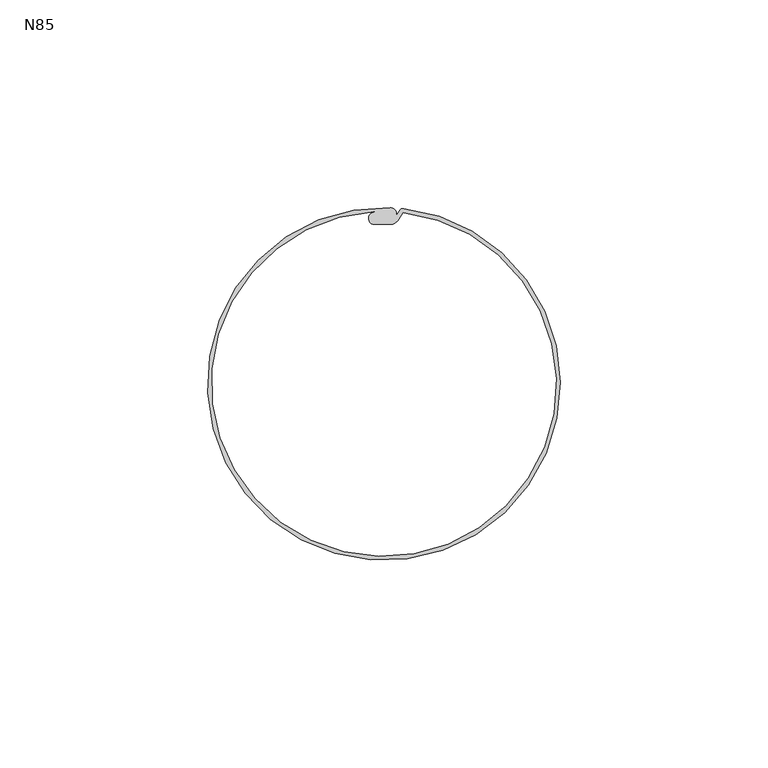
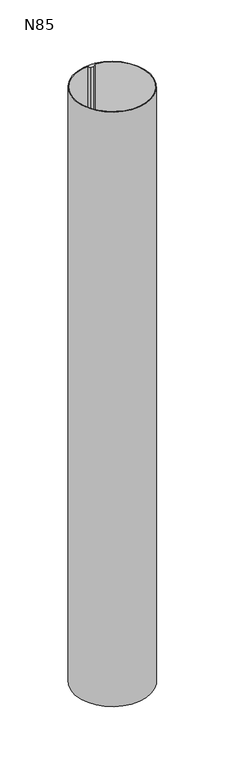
"""IFC4 building model written with IfcOpenShell, lengths in millimetres: proxy geometry, GROVIK_Downpipe_Straight_Vertical : N85."""

from ifc_helpers import new_model, si_unit, frame, origin, place, context, project, spatial, polyline, circle_curve, source, transform, mapped, element, save
from ifc_brep_helpers import plane_surface, cylinder_surface, revolved_surface, advanced_brep


def n85_1d0278b5(model_context):
    return source(origin(), model_context, "Body", "AdvancedBrep", [
        advanced_brep(
        [(4.7799116, 42.2303498, -6.0), (3.8941646, 41.9052634, -6.0), (2.8, 40.1056788, -6.0), (1.5, 42.4735212, -6.0), (4.6586072, 41.2376937, -6.0), (-2.286461, 41.4369653, -6.0), (-2.2, 38.3056788, -6.0), (1.4, 38.3056788, -6.0), (3.6663266, 39.6056788, -6.0), (4.7799116, 42.2303498, -702.746879), (1.5, 42.4735212, -702.746879), (2.8, 40.1056788, -702.746879), (3.8941646, 41.9052634, -702.746879), (4.6586072, 41.2376937, -702.746879), (3.6663266, 39.6056788, -702.746879), (1.4, 38.3056788, -702.746879), (-2.2, 38.3056788, -702.746879), (-2.2861899, 41.4320515, -702.746879)],
        [
            (0, 1, circle_curve(frame((4.6614631, 41.1838618, -6.0), z_axis=(0.0, 0.0, 1.0), x_axis=(1.0, 0.0, 0.0)), 1.0531701)),
            (1, 2),
            (2, 3, circle_curve(frame((1.4323114, 40.8955724, -6.0), z_axis=(0.0, 0.0, 1.0), x_axis=(1.0, 0.0, 0.0)), 1.5793999)),
            (3, 0, circle_curve(frame((0.0, 0.0, -6.0), z_axis=(0.0, 0.0, 1.0), x_axis=(1.0, 0.0, 0.0)), 42.5)),
            (4, 5, circle_curve(frame((0.0, 0.0, -6.0), z_axis=(0.0, 0.0, -1.0), x_axis=(1.0, 0.0, 0.0)), 41.5)),
            (5, 6, circle_curve(frame((-2.2, 39.8700532, -6.0), z_axis=(0.0, 0.0, 1.0), x_axis=(1.0, 0.0, 0.0)), 1.5643744)),
            (6, 7),
            (7, 8, circle_curve(frame((1.3537816, 41.0117282, -6.0), z_axis=(0.0, 0.0, 1.0), x_axis=(1.0, 0.0, 0.0)), 2.7064441)),
            (8, 4),
            (9, 10, circle_curve(frame((0.0, 0.0, -702.746879), z_axis=(0.0, 0.0, -1.0), x_axis=(1.0, 0.0, 0.0)), 42.5)),
            (10, 11, circle_curve(frame((1.4323114, 40.8955724, -702.746879), z_axis=(0.0, 0.0, -1.0), x_axis=(1.0, 0.0, 0.0)), 1.5793999)),
            (11, 12),
            (12, 9, circle_curve(frame((4.6614631, 41.1838618, -702.746879), z_axis=(0.0, 0.0, -1.0), x_axis=(1.0, 0.0, 0.0)), 1.0531701)),
            (13, 14),
            (14, 15, circle_curve(frame((1.3537816, 41.0117282, -702.746879), z_axis=(0.0, 0.0, -1.0), x_axis=(1.0, 0.0, 0.0)), 2.7064441)),
            (15, 16),
            (16, 17, circle_curve(frame((-2.2, 39.8700532, -702.746879), z_axis=(0.0, 0.0, -1.0), x_axis=(1.0, 0.0, 0.0)), 1.5643744)),
            (17, 13, circle_curve(frame((0.0, 0.0, -702.746879), z_axis=(0.0, 0.0, 1.0), x_axis=(1.0, 0.0, 0.0)), 41.5)),
            (4, 13),
            (17, 5),
            (16, 6),
            (15, 7),
            (14, 8),
            (0, 9),
            (12, 1),
            (11, 2),
            (10, 3),
        ],
        [
            plane_surface(frame((0.0, 0.0, -6.0), z_axis=(0.0, 0.0, 1.0), x_axis=(0.0, -1.0, 0.0))),
            plane_surface(frame((0.0, 0.0, -702.746879), z_axis=(0.0, 0.0, -1.0), x_axis=(0.0, -1.0, 0.0))),
            revolved_surface(polyline([(41.5, 0.0, -702.746879), (41.5, 0.0, -6.0)]), (0.0, 0.0, -6.0), (0.0, 0.0, -1.0)),
            cylinder_surface(frame((-2.2, 39.8700532, -6.0), z_axis=(0.0, 0.0, 1.0), x_axis=(1.0, 0.0, 0.0)), 1.5643744),
            plane_surface(frame((-2.2, 38.3056788, -6.0), z_axis=(0.0, -1.0, 0.0), x_axis=(0.0, 0.0, -1.0))),
            cylinder_surface(frame((1.3537816, 41.0117282, -6.0), z_axis=(0.0, 0.0, 1.0), x_axis=(1.0, 0.0, 0.0)), 2.7064441),
            plane_surface(frame((3.6663266, 39.6056788, -6.0), z_axis=(0.8544588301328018, -0.5195191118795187, 0.0), x_axis=(0.0, 0.0, -1.0))),
            cylinder_surface(frame((4.6614631, 41.1838618, -6.0), z_axis=(0.0, 0.0, 1.0), x_axis=(1.0, 0.0, 0.0)), 1.0531701),
            plane_surface(frame((3.8941646, 41.9052634, -6.0), z_axis=(-0.8544588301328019, 0.5195191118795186, 0.0), x_axis=(0.0, 0.0, -1.0))),
            cylinder_surface(frame((1.4323114, 40.8955724, -6.0), z_axis=(0.0, 0.0, 1.0), x_axis=(1.0, 0.0, 0.0)), 1.5793999),
            cylinder_surface(frame((0.0, 0.0, -6.0), z_axis=(0.0, 0.0, 1.0), x_axis=(1.0, 0.0, 0.0)), 42.5),
        ],
        [
            (0, [[1, 2, 3, 4], [5, 6, 7, 8, 9]]),
            (1, [[10, 11, 12, 13], [14, 15, 16, 17, 18]]),
            (2, [[-5, 19, -18, 20]]),
            (3, [[-6, -20, -17, 21]]),
            (4, [[-7, -21, -16, 22]]),
            (5, [[-8, -22, -15, 23]]),
            (6, [[-9, -23, -14, -19]]),
            (7, [[-1, 24, -13, 25]]),
            (8, [[-2, -25, -12, 26]]),
            (9, [[-3, -26, -11, 27]]),
            (10, [[-4, -27, -10, -24]]),
        ],
    ),
    ])


if __name__ == "__main__":
    model = new_model("IFC4")
    model_context = context("Model", 3, world=origin())
    ifc_project = project(units=[si_unit("LENGTHUNIT", "METRE", prefix="MILLI")], contexts=[model_context])
    site = spatial("IfcSite", under=ifc_project)
    building = spatial("IfcBuilding", under=site)
    placement = place(None, origin())
    n85_shape = n85_1d0278b5(model_context)
    element("IfcBuildingElementProxy", 1, Name="GROVIK_Downpipe_Straight_Vertical : N85", ObjectType="GROVIK_Downpipe_Straight_Vertical : N85", at=placement, inside=building, context=model_context, shape_type="MappedRepresentation", body=[
        mapped(n85_shape, transform((0.0, 0.0, 0.0), x_axis=(1.0, 0.0, 0.0), y_axis=(0.0, 1.0, 0.0), z_axis=(0.0, 0.0, 1.0))),
    ])
    save(model, "model.ifc")
